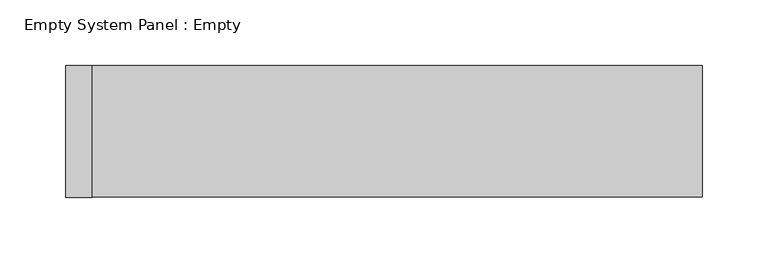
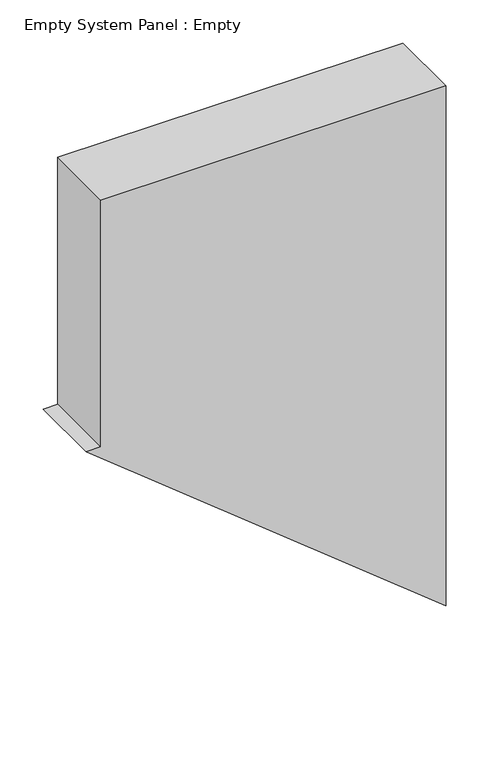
"""IFC4 building model written with IfcOpenShell, lengths in millimetres: plate geometry, Empty System Panel : Empty."""

from ifc_helpers import new_model, si_unit, frame, origin, place, context, project, spatial, polyline, outline, extrude, source, transform, mapped, element, save


def empty_system_panel_empty_7e000386(model_context):
    return source(origin(), model_context, "Body", "SweptSolid", [
        extrude(outline(polyline([(387.504061, -241.7391304), (0.0, 241.7391304), (737.6948751, 241.7391304), (737.6948751, -221.7391304), (387.504061, -221.7391304), (387.504061, -241.7391304)])), frame((0.0, -50.0, 0.0), z_axis=(0.0, 1.0, 0.0), x_axis=(0.0, 0.0, 1.0)), (0.0, 0.0, 1.0), 100.0),
    ])


if __name__ == "__main__":
    model = new_model("IFC4")
    model_context = context("Model", 3, world=origin())
    ifc_project = project(units=[si_unit("LENGTHUNIT", "METRE", prefix="MILLI")], contexts=[model_context])
    site = spatial("IfcSite", under=ifc_project)
    building = spatial("IfcBuilding", under=site)
    placement = place(None, origin())
    empty_system_panel_empty_shape = empty_system_panel_empty_7e000386(model_context)
    element("IfcPlate", 1, ObjectType="Empty System Panel : Empty", at=placement, inside=building, context=model_context, shape_type="MappedRepresentation", body=[
        mapped(empty_system_panel_empty_shape, transform((0.0, 0.0, 0.0), x_axis=(1.0, 0.0, 0.0), y_axis=(0.0, 1.0, 0.0), z_axis=(0.0, 0.0, 1.0))),
    ])
    save(model, "model.ifc")
